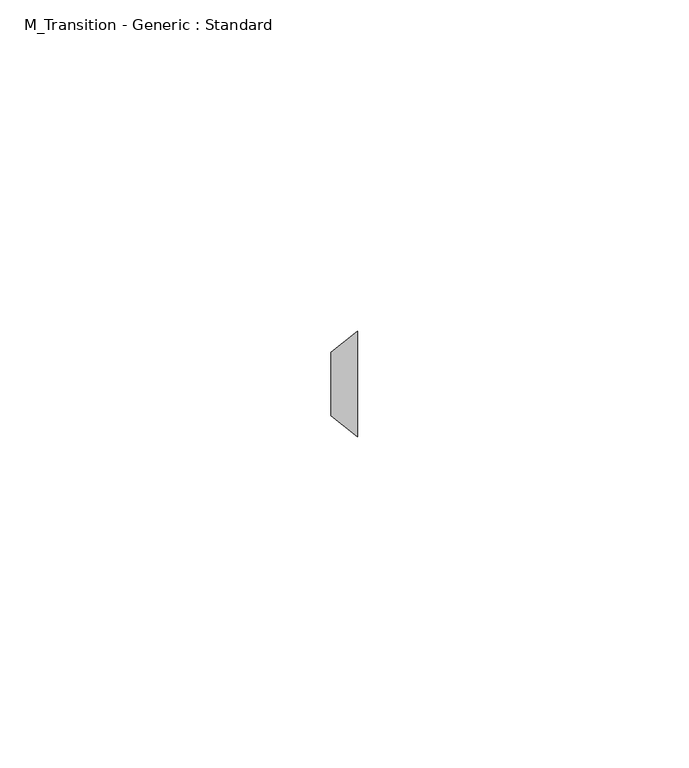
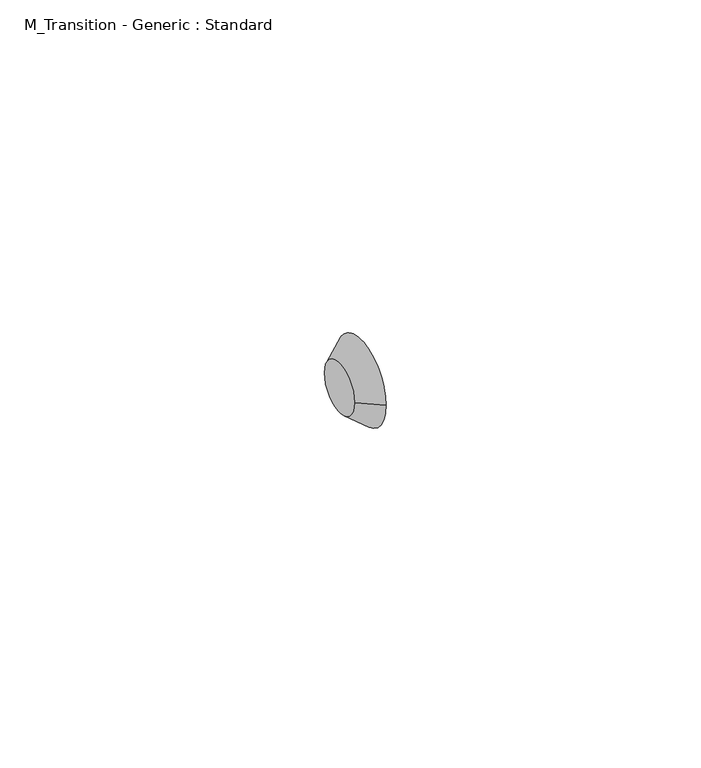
"""IFC4 building model written with IfcOpenShell, lengths in millimetres: pipe fitting geometry, M_Transition - Generic : Standard."""

from ifc_helpers import new_model, si_unit, frame, origin, place, context, project, spatial, polyline, circle_curve, source, transform, mapped, element, save
from ifc_brep_helpers import plane_surface, revolved_surface, advanced_brep


def m_transition_generic_standard_cdf71458(model_context):
    return source(origin(), model_context, "Body", "AdvancedBrep", [
        advanced_brep(
        [(3.96875, -7.9375, 0.0), (3.96875, 7.9375, 0.0), (0.0, -4.7875, 0.0), (0.0, 4.7875, 0.0)],
        [
            (0, 1, circle_curve(frame((3.96875, 0.0, 0.0), z_axis=(1.0, -1.091393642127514e-12, 1.4029942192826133e-12), x_axis=(-1.0913254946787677e-12, -1.0, 0.0)), 7.9375)),
            (1, 0, circle_curve(frame((3.96875, 0.0, 0.0), z_axis=(1.0, -1.091393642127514e-12, 1.4029942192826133e-12), x_axis=(1.091325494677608e-12, 1.0, 0.0)), 7.9375)),
            (2, 3, circle_curve(frame((0.0, 0.0, 0.0), z_axis=(-1.0, 1.091393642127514e-12, -1.4029942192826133e-12), x_axis=(1.091325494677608e-12, 1.0, 0.0)), 4.7875)),
            (3, 2, circle_curve(frame((0.0, 0.0, 0.0), z_axis=(-1.0, 1.091393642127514e-12, -1.4029942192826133e-12), x_axis=(-1.0913254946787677e-12, -1.0, 0.0)), 4.7875)),
            (3, 1),
            (0, 2),
        ],
        [
            plane_surface(frame((3.96875, 0.0, 0.0), z_axis=(1.0, 0.0, 0.0), x_axis=(0.0, 0.0, -1.0))),
            plane_surface(frame((0.0, 0.0, 0.0), z_axis=(-1.0, 0.0, 0.0), x_axis=(0.0, 0.0, -1.0))),
            revolved_surface(polyline([(0.0, 4.787499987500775, 0.0), (3.9687500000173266, 7.9375000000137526, 0.0)]), (-6.03187, 0.0, 0.0), (1.0, -1.091393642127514e-12, 1.4029942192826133e-12)),
            revolved_surface(polyline([(-1.0450307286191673e-11, -4.787499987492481, 0.0), (3.96875, -7.9375, 0.0)]), (-6.03187, 0.0, 0.0), (1.0, -1.091393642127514e-12, 1.4029942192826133e-12)),
        ],
        [
            (0, [[1, 2]]),
            (1, [[3, 4]]),
            (2, [[-4, 5, -1, 6]]),
            (3, [[-3, -6, -2, -5]]),
        ],
    ),
    ])


if __name__ == "__main__":
    model = new_model("IFC4")
    model_context = context("Model", 3, world=origin())
    ifc_project = project(units=[si_unit("LENGTHUNIT", "METRE", prefix="MILLI")], contexts=[model_context])
    site = spatial("IfcSite", under=ifc_project)
    building = spatial("IfcBuilding", under=site)
    placement = place(None, origin())
    m_transition_generic_standard_shape = m_transition_generic_standard_cdf71458(model_context)
    element("IfcPipeFitting", 1, ObjectType="M_Transition - Generic : Standard", at=placement, inside=building, context=model_context, shape_type="MappedRepresentation", body=[
        mapped(m_transition_generic_standard_shape, transform((0.0, 0.0, 0.0), x_axis=(1.0, 0.0, 0.0), y_axis=(0.0, 1.0, 0.0), z_axis=(0.0, 0.0, 1.0))),
    ])
    save(model, "model.ifc")
